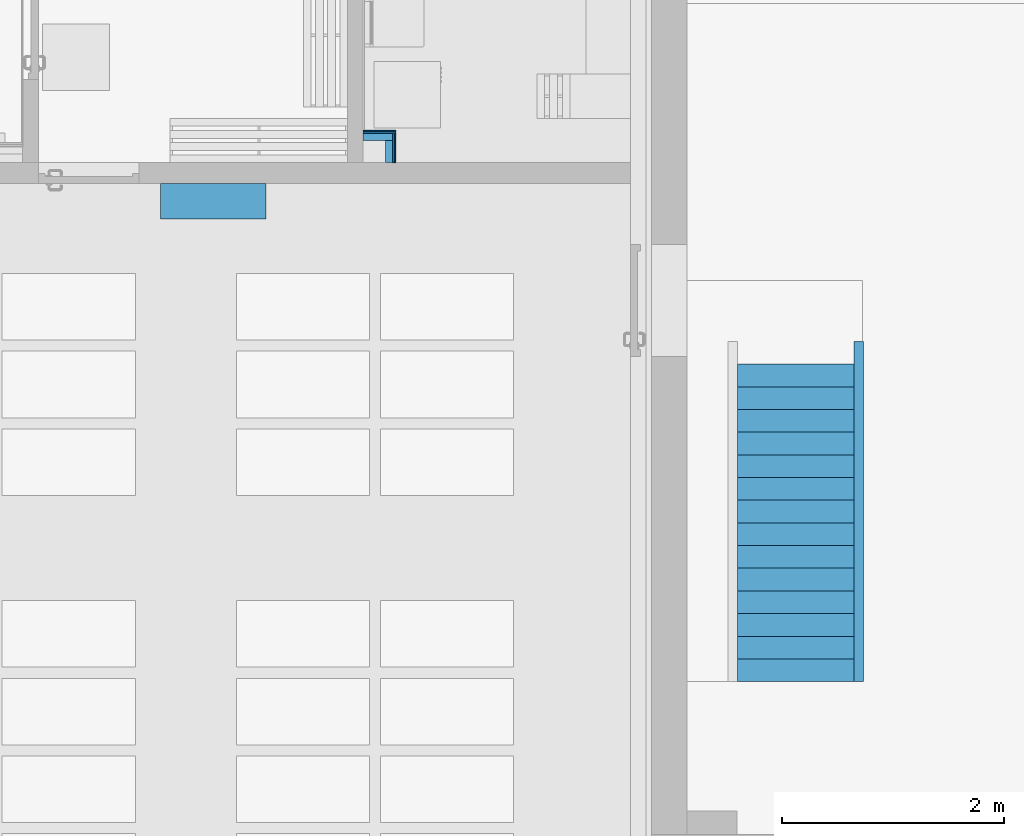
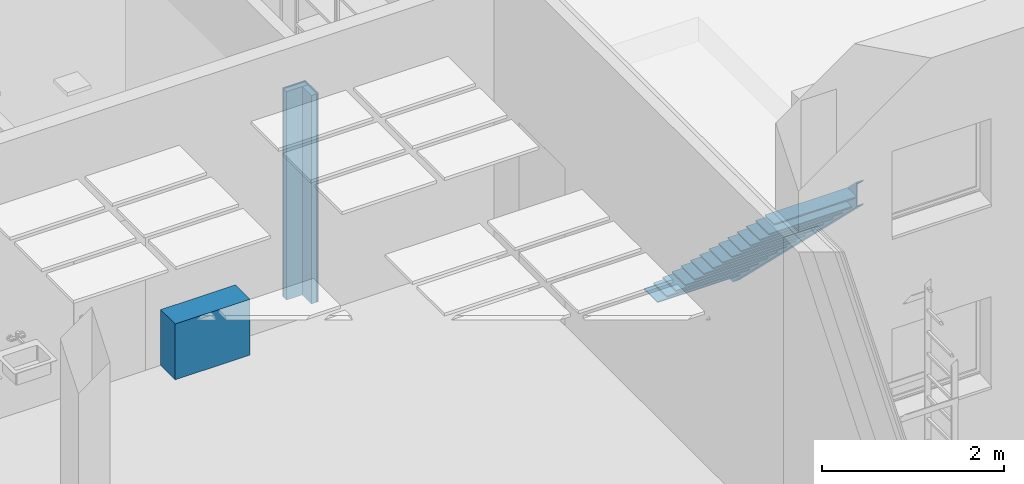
# One storey, part 209 of 301: 8 building element parts, 1 discrete accessory, 3 elements without a shape of their own.
"""IFC2X3 building model written with IfcOpenShell, lengths in millimetres."""

from ifc_helpers import new_model, entity, si_unit, converted_unit, derived_unit, money_unit, direction, frame, origin_with_axes, place, context, subcontext, project, spatial, faceted_brep, material, type_object, element, aggregate, save


model = new_model("IFC2X3")

# Units and contexts
model_context = context("Model", 3, precision=0.01, world=origin_with_axes(), true_north=direction((0.0, 1.0)))
body_context = subcontext(model_context, "Body", "Model", "MODEL_VIEW")
ifc_project = project(units=[si_unit("LENGTHUNIT", "METRE", prefix="MILLI"), si_unit("AREAUNIT", "SQUARE_METRE"), si_unit("VOLUMEUNIT", "CUBIC_METRE"), converted_unit("PLANEANGLEUNIT", "DEGREE", entity("IfcPlaneAngleMeasure", 0.0174532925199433), si_unit("PLANEANGLEUNIT", "RADIAN"), dimensions=[0, 0, 0, 0, 0, 0, 0]), money_unit("EUR"), converted_unit("TIMEUNIT", "Year", entity("IfcTimeMeasure", 31557600.0), si_unit("TIMEUNIT", "SECOND"), dimensions=[0, 0, 1, 0, 0, 0, 0]), si_unit("MASSUNIT", "GRAM", prefix="KILO"), si_unit("THERMODYNAMICTEMPERATUREUNIT", "DEGREE_CELSIUS"), si_unit("LUMINOUSINTENSITYUNIT", "LUMEN"), si_unit("ENERGYUNIT", "JOULE", prefix="MEGA"), derived_unit("THERMALCONDUCTANCEUNIT", [(si_unit("POWERUNIT", "WATT"), 1), (si_unit("LENGTHUNIT", "METRE"), -1), (si_unit("THERMODYNAMICTEMPERATUREUNIT", "KELVIN"), -1)]), derived_unit("SPECIFICHEATCAPACITYUNIT", [(si_unit("ENERGYUNIT", "JOULE"), 1), (si_unit("MASSUNIT", "GRAM", prefix="KILO"), -1), (si_unit("THERMODYNAMICTEMPERATUREUNIT", "KELVIN"), -1)]), derived_unit("MASSDENSITYUNIT", [(si_unit("MASSUNIT", "GRAM", prefix="KILO"), 1), (si_unit("VOLUMEUNIT", "CUBIC_METRE"), -1)])], contexts=[model_context])

# Site, building, storey
site_placement = place(None, frame((0.0, 0.0, 8650.0), z_axis=(0.0, 0.0, 1.0), x_axis=(1.0, 0.0, 0.0)))
site = spatial("IfcSite", under=ifc_project, at=site_placement, Name="43301:001:0844", CompositionType="ELEMENT")
building_placement = place(site_placement, origin_with_axes())
building = spatial("IfcBuilding", under=site, at=building_placement, Name="Kuressaare Ametikooli tuulikute mehaanikute õppekorpus", CompositionType="ELEMENT")
storey_placement = place(building_placement, origin_with_axes())
storey = spatial("IfcBuildingStorey", under=building, at=storey_placement, Name="1.korrus", CompositionType="ELEMENT", Elevation=0.0)

# Discrete accessory
ifc_material_1 = material(Name="GENEERILINE - KONSTRUKTRIOON")
discrete_accessory_type = type_object("IfcDiscreteAccessoryType", Name="GENEERILINE - KONSTRUKTRIOON 750")
discrete_accessory_placement = place(storey_placement, frame((128788.1526406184, 19884.46984143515, 0.0), z_axis=(0.0, 0.0, 1.0), x_axis=(1.0, 0.0, 0.0)))
element("IfcDiscreteAccessory", 1, at=discrete_accessory_placement, inside=storey, type_object=discrete_accessory_type, material=ifc_material_1, Name="PR2", context=body_context, shape_type="Brep", body=[
    faceted_brep([(0.0, 0.0, 750.0), (0.0, 0.0, 0.0), (0.0, -319.9999999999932, 0.0), (0.0, -319.9999999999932, 750.0), (949.9999999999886, 0.0, 750.0), (949.9999999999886, 0.0, 0.0), (949.9999999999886, -319.9999999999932, 0.0), (949.9999999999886, -319.9999999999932, 750.0)], [[[0, 1, 2, 3]], [[4, 5, 1, 0]], [[2, 1, 5, 6]], [[3, 2, 6, 7]], [[4, 0, 3, 7]], [[7, 6, 5, 4]]]),
])

# Wall, building element parts
wall_type = type_object("IfcWallType", Name="SS-2.4 92", PredefinedType="NOTDEFINED")
wall_1_placement = place(storey_placement, frame((130614.9464826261, 20274.46984143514, 0.0), z_axis=(0.0, 0.0, 1.0), x_axis=(1.0, 0.0, 0.0)))
wall_1 = element("IfcWall", 2, at=wall_1_placement, inside=storey, type_object=wall_type, Name="Sisesein")
ifc_material_2 = material(Name="Plaster - Gypsum")
building_element_part_1_placement = place(wall_1_placement, origin_with_axes())
building_element_part_1 = element("IfcBuildingElementPart", 3, at=building_element_part_1_placement, material=ifc_material_2, Name="Plaster - Gypsum", context=body_context, shape_type="Brep", body=[
    faceted_brep([(292.00000000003, 91.99999999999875, 2799.999999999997), (0.0, 91.99999999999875, 2799.999999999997), (0.0, 79.00000000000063, 2799.999999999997), (292.00000000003, 79.00000000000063, 2799.999999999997), (292.00000000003, 91.99999999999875, 0.0), (0.0, 91.99999999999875, 0.0), (0.0, 79.00000000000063, 0.0), (292.00000000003, 79.00000000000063, 0.0)], [[[0, 1, 2, 3]], [[4, 5, 1, 0]], [[2, 1, 5, 6]], [[3, 2, 6, 7]], [[3, 7, 4, 0]], [[7, 6, 5, 4]]]),
])
ifc_material_3 = material(Name="Plywood")
building_element_part_2_placement = place(wall_1_placement, origin_with_axes())
building_element_part_2 = element("IfcBuildingElementPart", 4, at=building_element_part_2_placement, material=ifc_material_3, Name="Plywood", context=body_context, shape_type="Brep", body=[
    faceted_brep([(279.0000000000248, 79.00000000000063, 2799.999999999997), (0.0, 79.00000000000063, 2799.999999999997), (0.0, 65.99999999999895, 2799.999999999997), (279.0000000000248, 65.99999999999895, 2799.999999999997), (279.0000000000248, 79.00000000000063, 0.0), (0.0, 79.00000000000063, 0.0), (0.0, 65.99999999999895, 0.0), (279.0000000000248, 65.99999999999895, 0.0)], [[[0, 1, 2, 3]], [[4, 5, 1, 0]], [[2, 1, 5, 6]], [[3, 2, 6, 7]], [[3, 7, 4, 0]], [[7, 6, 5, 4]]]),
])
ifc_material_4 = material(Name="Air Space - Frame")
building_element_part_3_placement = place(wall_1_placement, origin_with_axes())
building_element_part_3 = element("IfcBuildingElementPart", 5, at=building_element_part_3_placement, material=ifc_material_4, Name="Air Space - Frame", context=body_context, shape_type="Brep", body=[
    faceted_brep([(266.0000000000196, 65.99999999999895, 2799.999999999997), (0.0, 65.99999999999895, 2799.999999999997), (0.0, 0.0, 2799.999999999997), (266.0000000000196, 0.0, 2799.999999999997), (266.0000000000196, 65.99999999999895, 0.0), (0.0, 65.99999999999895, 0.0), (0.0, 0.0, 0.0), (266.0000000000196, 0.0, 0.0)], [[[0, 1, 2, 3]], [[4, 5, 1, 0]], [[2, 1, 5, 6]], [[3, 2, 6, 7]], [[3, 7, 4, 0]], [[7, 6, 5, 4]]]),
])
aggregate(wall_1, [building_element_part_1, building_element_part_2, building_element_part_3])

wall_2_placement = place(storey_placement, frame((130814.9464826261, 20274.46984143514, 0.0), z_axis=(0.0, 0.0, 1.0), x_axis=(0.0, -1.0, 0.0)))
wall_2 = element("IfcWall", 6, at=wall_2_placement, inside=storey, type_object=wall_type, Name="Sisesein")
building_element_part_4_placement = place(wall_2_placement, origin_with_axes())
building_element_part_4 = element("IfcBuildingElementPart", 7, at=building_element_part_4_placement, material=ifc_material_2, Name="Plaster - Gypsum", context=body_context, shape_type="Brep", body=[
    faceted_brep([(199.9999999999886, 92.00000000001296, 2799.999999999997), (-79.00000000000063, 92.00000000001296, 2799.999999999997), (-79.00000000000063, 79.00000000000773, 2799.999999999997), (199.9999999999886, 79.00000000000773, 2799.999999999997), (199.9999999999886, 92.00000000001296, 0.0), (-79.00000000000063, 92.00000000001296, 0.0), (-79.00000000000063, 79.00000000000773, 0.0), (199.9999999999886, 79.00000000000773, 0.0)], [[[0, 1, 2, 3]], [[4, 5, 1, 0]], [[2, 1, 5, 6]], [[3, 2, 6, 7]], [[3, 7, 4, 0]], [[7, 6, 5, 4]]]),
])
building_element_part_5_placement = place(wall_2_placement, origin_with_axes())
building_element_part_5 = element("IfcBuildingElementPart", 8, at=building_element_part_5_placement, material=ifc_material_3, Name="Plywood", context=body_context, shape_type="Brep", body=[
    faceted_brep([(199.9999999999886, 79.00000000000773, 2799.999999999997), (-65.99999999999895, 79.00000000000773, 2799.999999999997), (-65.99999999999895, 66.0000000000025, 2799.999999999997), (199.9999999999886, 66.0000000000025, 2799.999999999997), (199.9999999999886, 79.00000000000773, 0.0), (-65.99999999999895, 79.00000000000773, 0.0), (-65.99999999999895, 66.0000000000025, 0.0), (199.9999999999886, 66.0000000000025, 0.0)], [[[0, 1, 2, 3]], [[4, 5, 1, 0]], [[2, 1, 5, 6]], [[3, 2, 6, 7]], [[3, 7, 4, 0]], [[7, 6, 5, 4]]]),
])
building_element_part_6_placement = place(wall_2_placement, origin_with_axes())
building_element_part_6 = element("IfcBuildingElementPart", 9, at=building_element_part_6_placement, material=ifc_material_4, Name="Air Space - Frame", context=body_context, shape_type="Brep", body=[
    faceted_brep([(199.9999999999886, 66.0000000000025, 2799.999999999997), (0.0, 66.0000000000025, 2799.999999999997), (0.0, 0.0, 2799.999999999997), (199.9999999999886, 0.0, 2799.999999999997), (199.9999999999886, 66.0000000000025, 0.0), (0.0, 66.0000000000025, 0.0), (0.0, 0.0, 0.0), (199.9999999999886, 0.0, 0.0)], [[[0, 1, 2, 3]], [[4, 5, 1, 0]], [[2, 1, 5, 6]], [[3, 2, 6, 7]], [[3, 7, 4, 0]], [[7, 6, 5, 4]]]),
])
aggregate(wall_2, [building_element_part_4, building_element_part_5, building_element_part_6])

# Stair, building element parts
stair_placement = place(storey_placement, frame((134515.365311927, 18258.16345492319, 0.0), z_axis=(0.0, 0.0, 1.0), x_axis=(1.0, 0.0, 0.0)))
stair = element("IfcStair", 10, at=stair_placement, inside=storey, ShapeType="NOTDEFINED")
building_element_part_7_placement = place(stair_placement, origin_with_axes())
building_element_part_7 = element("IfcBuildingElementPart", 11, at=building_element_part_7_placement, material=ifc_material_1, Name="GENEERILINE - KONSTRUKTRIOON", context=body_context, shape_type="Brep", body=[
    faceted_brep([(525.0000000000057, -2862.86325996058, 2664.29448851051), (525.0000000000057, -2862.86325996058, 3000.0), (525.0000000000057, 204.4902328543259, 0.0), (525.0000000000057, -138.7522582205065, 0.0), (610.0000000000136, -2862.86325996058, 3000.0), (610.0000000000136, -2862.86325996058, 2664.29448851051), (610.0000000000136, -2862.86325996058, 2682.478537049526), (534.9999999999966, -2862.86325996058, 2682.478537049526), (534.9999999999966, -2862.86325996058, 2981.815951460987), (610.0000000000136, -2862.86325996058, 2981.815951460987), (610.0000000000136, 204.4902328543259, 0.0), (610.0000000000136, -138.7522582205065, 0.0), (610.0000000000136, 185.8979312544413, 0.0), (534.9999999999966, 185.8979312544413, 0.0), (534.9999999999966, -120.1599566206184, 0.0), (610.0000000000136, -120.1599566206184, 0.0)], [[[0, 1, 2, 3]], [[4, 1, 0, 5, 6, 7, 8, 9]], [[1, 4, 10, 2]], [[11, 3, 2, 10, 12, 13, 14, 15]], [[5, 0, 3, 11]], [[6, 5, 11, 15]], [[7, 6, 15, 14]], [[8, 7, 14, 13]], [[9, 8, 13, 12]], [[4, 9, 12, 10]]]),
])
building_element_part_8_placement = place(stair_placement, origin_with_axes())
building_element_part_8 = element("IfcBuildingElementPart", 12, at=building_element_part_8_placement, material=ifc_material_1, Name="GENEERILINE - KONSTRUKTRIOON", context=body_context, shape_type="Brep", body=[
    faceted_brep([(525.0000000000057, 0.0, 185.0), (-525.0000000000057, 0.0, 185.0), (-525.0000000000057, 0.0, 200.0), (525.0000000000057, 0.0, 200.0), (525.0000000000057, -297.7517644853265, 185.0), (-525.0000000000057, -297.7517644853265, 185.0), (-525.0000000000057, -297.7517644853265, 200.0), (525.0000000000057, -297.7517644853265, 200.0)], [[[0, 1, 2, 3]], [[0, 4, 5, 1]], [[1, 5, 6, 2]], [[3, 2, 6, 7]], [[4, 0, 3, 7]], [[5, 4, 7, 6]]]),
    faceted_brep([(525.0000000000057, -204.4902328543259, 385.0), (-525.0000000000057, -204.4902328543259, 385.0), (-525.0000000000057, -204.4902328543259, 400.0), (525.0000000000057, -204.4902328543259, 400.0), (525.0000000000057, -502.2419973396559, 385.0), (-525.0000000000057, -502.2419973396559, 385.0), (-525.0000000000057, -502.2419973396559, 400.0), (525.0000000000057, -502.2419973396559, 400.0)], [[[0, 1, 2, 3]], [[0, 4, 5, 1]], [[1, 5, 6, 2]], [[3, 2, 6, 7]], [[4, 0, 3, 7]], [[5, 4, 7, 6]]]),
    faceted_brep([(525.0000000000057, -408.9804657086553, 585.0), (-525.0000000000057, -408.9804657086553, 585.0), (-525.0000000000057, -408.9804657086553, 600.0), (525.0000000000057, -408.9804657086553, 600.0), (525.0000000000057, -706.7322301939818, 585.0), (-525.0000000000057, -706.7322301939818, 585.0), (-525.0000000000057, -706.7322301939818, 600.0), (525.0000000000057, -706.7322301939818, 600.0)], [[[0, 1, 2, 3]], [[0, 4, 5, 1]], [[1, 5, 6, 2]], [[3, 2, 6, 7]], [[4, 0, 3, 7]], [[5, 4, 7, 6]]]),
    faceted_brep([(525.0000000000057, -613.4706985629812, 784.9999999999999), (-525.0000000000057, -613.4706985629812, 784.9999999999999), (-525.0000000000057, -613.4706985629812, 799.9999999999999), (525.0000000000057, -613.4706985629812, 799.9999999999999), (525.0000000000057, -911.2224630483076, 784.9999999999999), (-525.0000000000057, -911.2224630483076, 784.9999999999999), (-525.0000000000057, -911.2224630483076, 799.9999999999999), (525.0000000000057, -911.2224630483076, 799.9999999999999)], [[[0, 1, 2, 3]], [[0, 4, 5, 1]], [[1, 5, 6, 2]], [[3, 2, 6, 7]], [[4, 0, 3, 7]], [[5, 4, 7, 6]]]),
    faceted_brep([(525.0000000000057, -817.960931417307, 984.9999999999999), (-525.0000000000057, -817.960931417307, 984.9999999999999), (-525.0000000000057, -817.960931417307, 999.9999999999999), (525.0000000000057, -817.960931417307, 999.9999999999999), (525.0000000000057, -1115.712695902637, 984.9999999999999), (-525.0000000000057, -1115.712695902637, 984.9999999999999), (-525.0000000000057, -1115.712695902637, 999.9999999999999), (525.0000000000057, -1115.712695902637, 999.9999999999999)], [[[0, 1, 2, 3]], [[0, 4, 5, 1]], [[1, 5, 6, 2]], [[3, 2, 6, 7]], [[4, 0, 3, 7]], [[5, 4, 7, 6]]]),
    faceted_brep([(525.0000000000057, -1022.451164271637, 1185.0), (-525.0000000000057, -1022.451164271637, 1185.0), (-525.0000000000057, -1022.451164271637, 1200.0), (525.0000000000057, -1022.451164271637, 1200.0), (525.0000000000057, -1320.202928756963, 1185.0), (-525.0000000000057, -1320.202928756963, 1185.0), (-525.0000000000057, -1320.202928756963, 1200.0), (525.0000000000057, -1320.202928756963, 1200.0)], [[[0, 1, 2, 3]], [[0, 4, 5, 1]], [[1, 5, 6, 2]], [[3, 2, 6, 7]], [[4, 0, 3, 7]], [[5, 4, 7, 6]]]),
    faceted_brep([(525.0000000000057, -1226.941397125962, 1385.0), (-525.0000000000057, -1226.941397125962, 1385.0), (-525.0000000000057, -1226.941397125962, 1400.0), (525.0000000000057, -1226.941397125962, 1400.0), (525.0000000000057, -1524.693161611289, 1385.0), (-525.0000000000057, -1524.693161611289, 1385.0), (-525.0000000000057, -1524.693161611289, 1400.0), (525.0000000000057, -1524.693161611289, 1400.0)], [[[0, 1, 2, 3]], [[0, 4, 5, 1]], [[1, 5, 6, 2]], [[3, 2, 6, 7]], [[4, 0, 3, 7]], [[5, 4, 7, 6]]]),
    faceted_brep([(525.0000000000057, -1431.431629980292, 1585.0), (-525.0000000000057, -1431.431629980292, 1585.0), (-525.0000000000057, -1431.431629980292, 1600.0), (525.0000000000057, -1431.431629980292, 1600.0), (525.0000000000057, -1729.183394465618, 1585.0), (-525.0000000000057, -1729.183394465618, 1585.0), (-525.0000000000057, -1729.183394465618, 1600.0), (525.0000000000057, -1729.183394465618, 1600.0)], [[[0, 1, 2, 3]], [[0, 4, 5, 1]], [[1, 5, 6, 2]], [[3, 2, 6, 7]], [[4, 0, 3, 7]], [[5, 4, 7, 6]]]),
    faceted_brep([(525.0000000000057, -1635.921862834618, 1785.0), (-525.0000000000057, -1635.921862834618, 1785.0), (-525.0000000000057, -1635.921862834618, 1800.0), (525.0000000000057, -1635.921862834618, 1800.0), (525.0000000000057, -1933.673627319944, 1785.0), (-525.0000000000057, -1933.673627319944, 1785.0), (-525.0000000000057, -1933.673627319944, 1800.0), (525.0000000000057, -1933.673627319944, 1800.0)], [[[0, 1, 2, 3]], [[0, 4, 5, 1]], [[1, 5, 6, 2]], [[3, 2, 6, 7]], [[4, 0, 3, 7]], [[5, 4, 7, 6]]]),
    faceted_brep([(525.0000000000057, -1840.412095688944, 1985.0), (-525.0000000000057, -1840.412095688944, 1985.0), (-525.0000000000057, -1840.412095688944, 2000.0), (525.0000000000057, -1840.412095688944, 2000.0), (525.0000000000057, -2138.16386017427, 1985.0), (-525.0000000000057, -2138.16386017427, 1985.0), (-525.0000000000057, -2138.16386017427, 2000.0), (525.0000000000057, -2138.16386017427, 2000.0)], [[[0, 1, 2, 3]], [[0, 4, 5, 1]], [[1, 5, 6, 2]], [[3, 2, 6, 7]], [[4, 0, 3, 7]], [[5, 4, 7, 6]]]),
    faceted_brep([(525.0000000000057, -2044.902328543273, 2185.0), (-525.0000000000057, -2044.902328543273, 2185.0), (-525.0000000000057, -2044.902328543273, 2200.0), (525.0000000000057, -2044.902328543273, 2200.0), (525.0000000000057, -2342.6540930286, 2185.0), (-525.0000000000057, -2342.6540930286, 2185.0), (-525.0000000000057, -2342.6540930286, 2200.0), (525.0000000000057, -2342.6540930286, 2200.0)], [[[0, 1, 2, 3]], [[0, 4, 5, 1]], [[1, 5, 6, 2]], [[3, 2, 6, 7]], [[4, 0, 3, 7]], [[5, 4, 7, 6]]]),
    faceted_brep([(525.0000000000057, -2249.392561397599, 2385.0), (-525.0000000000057, -2249.392561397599, 2385.0), (-525.0000000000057, -2249.392561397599, 2400.0), (525.0000000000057, -2249.392561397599, 2400.0), (525.0000000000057, -2547.144325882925, 2385.0), (-525.0000000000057, -2547.144325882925, 2385.0), (-525.0000000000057, -2547.144325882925, 2400.0), (525.0000000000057, -2547.144325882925, 2400.0)], [[[0, 1, 2, 3]], [[0, 4, 5, 1]], [[1, 5, 6, 2]], [[3, 2, 6, 7]], [[4, 0, 3, 7]], [[5, 4, 7, 6]]]),
    faceted_brep([(525.0000000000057, -2453.882794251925, 2585.0), (-525.0000000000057, -2453.882794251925, 2585.0), (-525.0000000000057, -2453.882794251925, 2600.0), (525.0000000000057, -2453.882794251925, 2600.0), (525.0000000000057, -2751.634558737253, 2585.0), (-525.0000000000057, -2751.634558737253, 2585.0), (-525.0000000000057, -2751.634558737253, 2600.0), (525.0000000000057, -2751.634558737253, 2600.0)], [[[0, 1, 2, 3]], [[0, 4, 5, 1]], [[1, 5, 6, 2]], [[3, 2, 6, 7]], [[4, 0, 3, 7]], [[5, 4, 7, 6]]]),
    faceted_brep([(525.0000000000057, -2658.373027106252, 2785.0), (-525.0000000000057, -2658.373027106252, 2785.0), (-525.0000000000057, -2658.373027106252, 2800.0), (525.0000000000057, -2658.373027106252, 2800.0), (525.0000000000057, -2862.86325996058, 2785.0), (-525.0000000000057, -2862.86325996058, 2785.0), (-525.0000000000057, -2862.86325996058, 2800.0), (525.0000000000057, -2862.86325996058, 2800.0)], [[[0, 1, 2, 3]], [[0, 4, 5, 1]], [[1, 5, 6, 2]], [[3, 2, 6, 7]], [[4, 0, 3, 7]], [[5, 4, 7, 6]]]),
])
aggregate(stair, [building_element_part_7, building_element_part_8])

save(model, "model.ifc")
